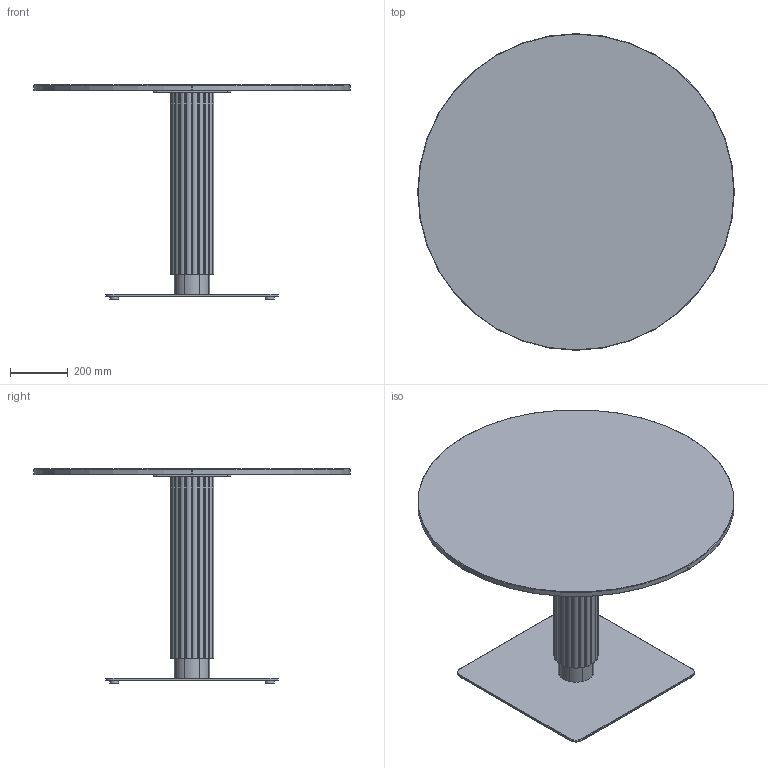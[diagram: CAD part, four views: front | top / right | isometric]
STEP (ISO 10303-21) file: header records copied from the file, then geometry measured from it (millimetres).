
FILE_DESCRIPTION( ('This file contains a STEP AP42 implementation' ,'as created by ZW3D STEP Interface translator.') ,'2;1' );
FILE_NAME( 'God - B_Carré - F1 - M1 - 1100 x 1100 x 750.stp' ,'24 912. 92514', (''), ('ZWCAD Software Co.'), 'Version 1.0', 'ZW3D to STEP translator', '' );
FILE_SCHEMA(('AUTOMOTIVE_DESIGN { 1 0 10303 214 1 1 1 1 }'));
Length unit declared in the file: millimetre
Products named in the file (15): 0; PIED BISTROT PARAMETRIQUE_; CROIX ACIER 370 V.02_; CRX-X370-02_; SOCLE ACIER L 600x600 V.02_; SCL-R600-02_; PLA-R30A-01_; PLA-R30A-01; COLONNE ACIER Ø48.5 V.02_; TUB-D048-02_; PLA-R48A-01_; Colonne GODRON H700_; WUERTH 0276063020 Euro-screw 6.3x2 Verzinkt_; PLATEAU BISTROT PARAMETRIQUE_; insert_m6_13_
Assembly tree (23 placements, depth 3):
  0
  PIED BISTROT PARAMETRIQUE_
    CROIX ACIER 370 V.02_
      CRX-X370-02_
    SOCLE ACIER L 600x600 V.02_
      SCL-R600-02_
      PLA-R30A-01_
      PLA-R30A-01  x3
    COLONNE ACIER Ø48.5 V.02_
      TUB-D048-02_
      PLA-R48A-01_  x2
    Colonne GODRON H700_
    WUERTH 0276063020 Euro-screw 6.3x2 Verzinkt_
    PLATEAU BISTROT PARAMETRIQUE_
      insert_m6_13_  x8
Bounding box: 1100 x 1100 x 744 mm (x, y, z)
Volume: 32937495.6 mm3; surface area: 4115920 mm2
Topology: 27 solids, 27 shells, 669 faces, 1662 edges, 1062 vertices
Faces by surface type: plane 302, cylinder 192, bspline 121, cone 53, torus 1
Full cylindrical faces by diameter (mm): 4.88 x1, 6 x8, 6.3 x1, 8 x45, 12 x2, 14 x2, 30 x4, 44.5 x3, 48.5 x1
Entity records: 16810 total; most frequent: CARTESIAN_POINT 4133, DIRECTION 2344, ORIENTED_EDGE 2338, EDGE_CURVE 1169, AXIS2_PLACEMENT_3D 829, VERTEX_POINT 756, VECTOR 686, LINE 686
